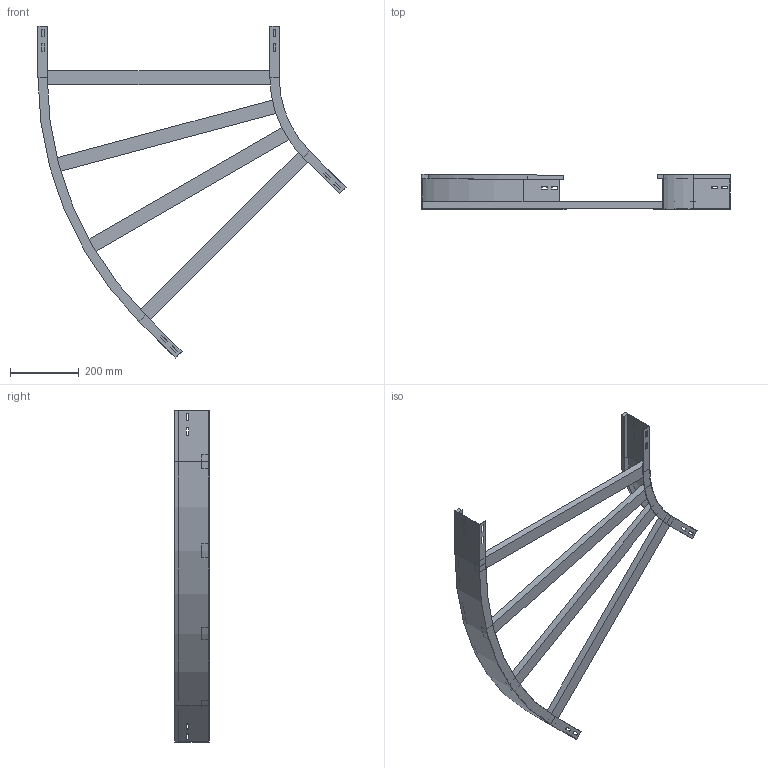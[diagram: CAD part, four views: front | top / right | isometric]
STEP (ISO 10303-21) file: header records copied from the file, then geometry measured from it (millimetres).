
FILE_DESCRIPTION (( 'STEP AP214' ), '1' );
FILE_NAME ('A2_11B3D700.step', '2025-02-21T15:12:35', ( '' ), ( '' ), 'SwSTEP 2.0', 'SolidWorks 2023', '' );
FILE_SCHEMA (( 'AUTOMOTIVE_DESIGN' ));
Length unit declared in the file: millimetre
Products named in the file (4): TRAVERSINO_700; A2_LONGH.ESTERNO 45°_H100_R300+700; A2_11B3D700; A2_LONGH.INTERNO 45°_H100_R300
Assembly tree (6 placements, depth 2):
  A2_11B3D700
    A2_LONGH.INTERNO 45°_H100_R300
    A2_LONGH.ESTERNO 45°_H100_R300+700
    TRAVERSINO_700  x4
Bounding box: 893.93 x 100 x 963.17 mm (x, y, z)
Volume: 2966601.8 mm3; surface area: 805651 mm2
Topology: 6 solids, 6 shells, 140 faces, 352 edges, 224 vertices
Faces by surface type: plane 132, cylinder 8
Entity records: 3829 total; most frequent: CARTESIAN_POINT 647, ORIENTED_EDGE 632, DIRECTION 594, EDGE_CURVE 316, VECTOR 300, LINE 300, VERTEX_POINT 200, EDGE_LOOP 154
